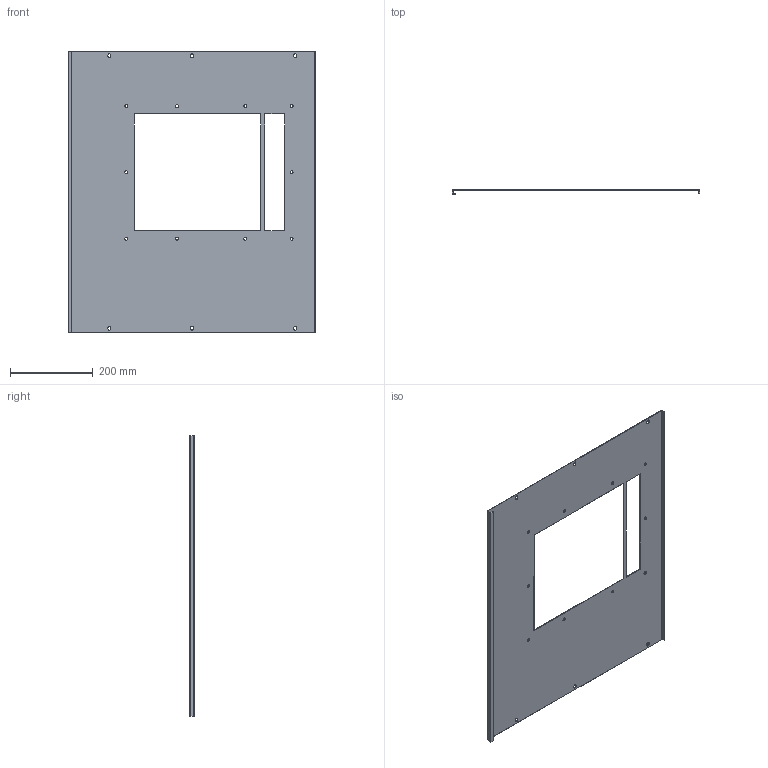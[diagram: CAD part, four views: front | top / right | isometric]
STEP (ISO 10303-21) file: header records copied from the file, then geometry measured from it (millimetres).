
FILE_DESCRIPTION (( 'STEP AP214' ), '1' );
FILE_NAME ('FO-00-PVD-060-080 Ïëàñòðîí ñ âûðåçîì äëÿ ACB Armat D 3II4P W 600õ800.STEP', '2025-08-26T07:46:47', ( '' ), ( '' ), 'SwSTEP 2.0', 'SolidWorks 2023', '' );
FILE_SCHEMA (( 'AUTOMOTIVE_DESIGN' ));
Length unit declared in the file: millimetre
Products named in the file (1): FO-00-PVD-060-080 Пластрон с вырезом для ACB Armat D 3II4P W 600х800
Bounding box: 598 x 12.5 x 679 mm (x, y, z)
Volume: 483683.3 mm3; surface area: 652179 mm2
Topology: 1 solids, 1 shells, 80 faces, 234 edges, 156 vertices
Faces by surface type: plane 42, cylinder 38
Entity records: 2769 total; most frequent: DIRECTION 472, CARTESIAN_POINT 471, ORIENTED_EDGE 468, EDGE_CURVE 234, VECTOR 158, LINE 158, AXIS2_PLACEMENT_3D 157, VERTEX_POINT 156
